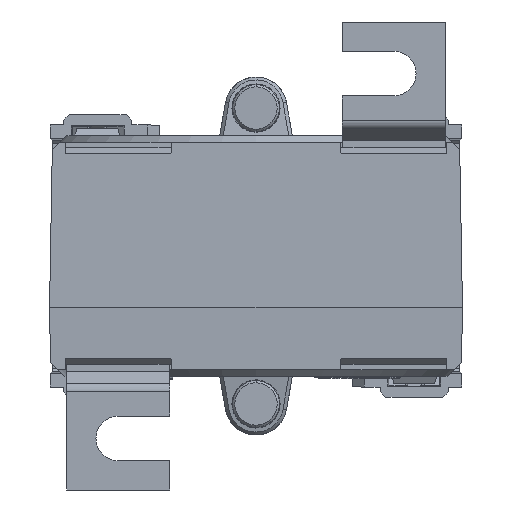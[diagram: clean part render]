
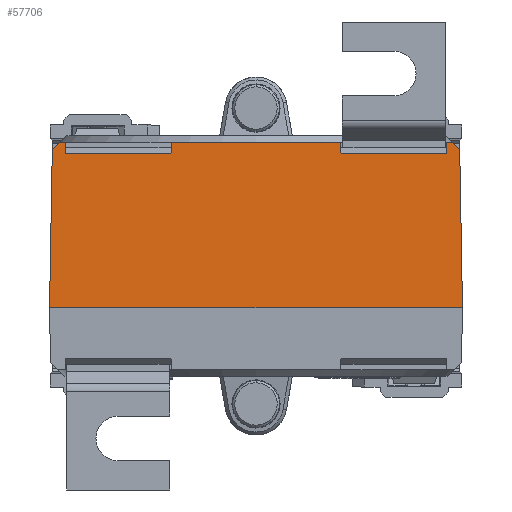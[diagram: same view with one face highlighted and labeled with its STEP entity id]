
A CAD part, front view. The second image highlights one B-rep face of the part: STEP entity #57706.
In plain terms, the highlighted planar face has unit normal (0, -1, 0.018).
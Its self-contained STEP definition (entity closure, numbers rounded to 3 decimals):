
#287 = EDGE_CURVE ( 'NONE', #29621, #38697, #89079, .T. ) ;
#1210 = VERTEX_POINT ( 'NONE', #58755 ) ;
#8693 = VERTEX_POINT ( 'NONE', #57717 ) ;
#9580 = LINE ( 'NONE', #72596, #30900 ) ;
#9790 = CARTESIAN_POINT ( 'NONE',  ( 12.337, -31.081, 24. ) ) ;
#10203 = EDGE_CURVE ( 'NONE', #65816, #59927, #51721, .T. ) ;
#10386 = ORIENTED_EDGE ( 'NONE', *, *, #84224, .F. ) ;
#12512 = DIRECTION ( 'NONE',  ( -1., 0., 0. ) ) ;
#14089 = DIRECTION ( 'NONE',  ( -0.719, 0.012, 0.695 ) ) ;
#16750 = CARTESIAN_POINT ( 'NONE',  ( -27.663, -31.081, 24. ) ) ;
#17963 = DIRECTION ( 'NONE',  ( 0.009, -0.017, -1. ) ) ;
#19256 = DIRECTION ( 'NONE',  ( 1., 0., 0. ) ) ;
#19688 = VERTEX_POINT ( 'NONE', #108164 ) ;
#20089 = ORIENTED_EDGE ( 'NONE', *, *, #100920, .F. ) ;
#20101 = LINE ( 'NONE', #26280, #110942 ) ;
#20440 = VERTEX_POINT ( 'NONE', #67108 ) ;
#23254 = PLANE ( 'NONE',  #42811 ) ;
#25202 = CARTESIAN_POINT ( 'NONE',  ( 12.344, -31.11, 22.325 ) ) ;
#25409 = ORIENTED_EDGE ( 'NONE', *, *, #111015, .F. ) ;
#25642 = CARTESIAN_POINT ( 'NONE',  ( -27.649, -31.11, 22.325 ) ) ;
#26280 = CARTESIAN_POINT ( 'NONE',  ( 29.99, -31.49, 0.549 ) ) ;
#27827 = DIRECTION ( 'NONE',  ( 0.009, 0.017, 1. ) ) ;
#28647 = DIRECTION ( 'NONE',  ( 1., 0., 0. ) ) ;
#28798 = VERTEX_POINT ( 'NONE', #9790 ) ;
#28835 = VECTOR ( 'NONE', #17963, 1000. ) ;
#29621 = VERTEX_POINT ( 'NONE', #98072 ) ;
#30900 = VECTOR ( 'NONE', #63899, 1000. ) ;
#32092 = VECTOR ( 'NONE', #82107, 1000. ) ;
#32362 = DIRECTION ( 'NONE',  ( 0., -1., 0.017 ) ) ;
#33143 = VECTOR ( 'NONE', #79203, 1000. ) ;
#33177 = LINE ( 'NONE', #55732, #36008 ) ;
#33280 = ORIENTED_EDGE ( 'NONE', *, *, #42514, .F. ) ;
#34955 = LINE ( 'NONE', #100062, #32092 ) ;
#35966 = LINE ( 'NONE', #25202, #60114 ) ;
#36008 = VECTOR ( 'NONE', #19256, 1000. ) ;
#37321 = FACE_OUTER_BOUND ( 'NONE', #61723, .T. ) ;
#37611 = VECTOR ( 'NONE', #54660, 1000. ) ;
#38697 = VERTEX_POINT ( 'NONE', #104661 ) ;
#38851 = VECTOR ( 'NONE', #28647, 1000. ) ;
#39433 = CARTESIAN_POINT ( 'NONE',  ( -30., -31.11, 22.325 ) ) ;
#39967 = ORIENTED_EDGE ( 'NONE', *, *, #105795, .F. ) ;
#40322 = EDGE_CURVE ( 'NONE', #19688, #28798, #34955, .T. ) ;
#40566 = ORIENTED_EDGE ( 'NONE', *, *, #70591, .T. ) ;
#42514 = EDGE_CURVE ( 'NONE', #8693, #79643, #60127, .T. ) ;
#42811 = AXIS2_PLACEMENT_3D ( 'NONE', #50176, #32362, #95849 ) ;
#44826 = CARTESIAN_POINT ( 'NONE',  ( -28.302, -31.077, 24.262 ) ) ;
#49129 = ORIENTED_EDGE ( 'NONE', *, *, #86035, .F. ) ;
#50099 = LINE ( 'NONE', #72251, #28835 ) ;
#50176 = CARTESIAN_POINT ( 'NONE',  ( -30., -31.5, 0. ) ) ;
#50354 = CARTESIAN_POINT ( 'NONE',  ( 27.663, -31.081, 24. ) ) ;
#51577 = VECTOR ( 'NONE', #27827, 1000. ) ;
#51721 = LINE ( 'NONE', #39433, #67330 ) ;
#53644 = VECTOR ( 'NONE', #14089, 1000. ) ;
#54660 = DIRECTION ( 'NONE',  ( -0.017, -0.017, -1. ) ) ;
#54717 = CARTESIAN_POINT ( 'NONE',  ( -12.351, -31.11, 22.325 ) ) ;
#55732 = CARTESIAN_POINT ( 'NONE',  ( -30., -31.081, 24. ) ) ;
#57706 = ADVANCED_FACE ( 'NONE', ( #37321 ), #23254, .T. ) ;
#57717 = CARTESIAN_POINT ( 'NONE',  ( 27.649, -31.11, 22.325 ) ) ;
#58755 = CARTESIAN_POINT ( 'NONE',  ( -30., -31.5, 0. ) ) ;
#59698 = CARTESIAN_POINT ( 'NONE',  ( 28.302, -31.077, 24.262 ) ) ;
#59927 = VERTEX_POINT ( 'NONE', #25642 ) ;
#60114 = VECTOR ( 'NONE', #97810, 1000. ) ;
#60127 = LINE ( 'NONE', #106188, #33143 ) ;
#60357 = VERTEX_POINT ( 'NONE', #80574 ) ;
#61723 = EDGE_LOOP ( 'NONE', ( #33280, #96187, #39967, #68540, #20089, #81874, #25409, #95754, #101288, #82501, #79711, #49129, #40566, #10386 ) ) ;
#62785 = CARTESIAN_POINT ( 'NONE',  ( -30., -31.5, 0. ) ) ;
#63772 = CARTESIAN_POINT ( 'NONE',  ( 28.573, -31.081, 24. ) ) ;
#63899 = DIRECTION ( 'NONE',  ( 0.009, -0.017, -1. ) ) ;
#65816 = VERTEX_POINT ( 'NONE', #54717 ) ;
#65846 = LINE ( 'NONE', #73844, #38851 ) ;
#67108 = CARTESIAN_POINT ( 'NONE',  ( 29.598, -31.098, 23.01 ) ) ;
#67330 = VECTOR ( 'NONE', #12512, 1000. ) ;
#68540 = ORIENTED_EDGE ( 'NONE', *, *, #40322, .F. ) ;
#70591 = EDGE_CURVE ( 'NONE', #20440, #90839, #99128, .T. ) ;
#72251 = CARTESIAN_POINT ( 'NONE',  ( -27.551, -31.307, 11.084 ) ) ;
#72501 = VERTEX_POINT ( 'NONE', #103174 ) ;
#72596 = CARTESIAN_POINT ( 'NONE',  ( 12.449, -31.307, 11.084 ) ) ;
#73844 = CARTESIAN_POINT ( 'NONE',  ( -30., -31.081, 24. ) ) ;
#73955 = EDGE_CURVE ( 'NONE', #29621, #75745, #65846, .T. ) ;
#75745 = VERTEX_POINT ( 'NONE', #16750 ) ;
#79203 = DIRECTION ( 'NONE',  ( 0.009, 0.017, 1. ) ) ;
#79248 = EDGE_CURVE ( 'NONE', #1210, #72501, #111933, .T. ) ;
#79643 = VERTEX_POINT ( 'NONE', #50354 ) ;
#79711 = ORIENTED_EDGE ( 'NONE', *, *, #79248, .T. ) ;
#80574 = CARTESIAN_POINT ( 'NONE',  ( 12.351, -31.11, 22.325 ) ) ;
#81874 = ORIENTED_EDGE ( 'NONE', *, *, #10203, .T. ) ;
#82107 = DIRECTION ( 'NONE',  ( 1., 0., 0. ) ) ;
#82501 = ORIENTED_EDGE ( 'NONE', *, *, #90919, .T. ) ;
#84224 = EDGE_CURVE ( 'NONE', #79643, #90839, #33177, .T. ) ;
#86035 = EDGE_CURVE ( 'NONE', #20440, #72501, #20101, .T. ) ;
#89079 = LINE ( 'NONE', #44826, #107527 ) ;
#90596 = VECTOR ( 'NONE', #108768, 1000. ) ;
#90839 = VERTEX_POINT ( 'NONE', #63772 ) ;
#90919 = EDGE_CURVE ( 'NONE', #38697, #1210, #107201, .T. ) ;
#92402 = EDGE_CURVE ( 'NONE', #8693, #60357, #35966, .T. ) ;
#95754 = ORIENTED_EDGE ( 'NONE', *, *, #73955, .F. ) ;
#95849 = DIRECTION ( 'NONE',  ( 0., -0.017, -1. ) ) ;
#96187 = ORIENTED_EDGE ( 'NONE', *, *, #92402, .T. ) ;
#97045 = LINE ( 'NONE', #109535, #51577 ) ;
#97810 = DIRECTION ( 'NONE',  ( -1., 0., 0. ) ) ;
#98072 = CARTESIAN_POINT ( 'NONE',  ( -28.573, -31.081, 24. ) ) ;
#99128 = LINE ( 'NONE', #59698, #53644 ) ;
#100062 = CARTESIAN_POINT ( 'NONE',  ( -30., -31.081, 24. ) ) ;
#100920 = EDGE_CURVE ( 'NONE', #65816, #19688, #97045, .T. ) ;
#101288 = ORIENTED_EDGE ( 'NONE', *, *, #287, .T. ) ;
#101627 = DIRECTION ( 'NONE',  ( -0.719, -0.012, -0.695 ) ) ;
#103174 = CARTESIAN_POINT ( 'NONE',  ( 30., -31.5, 0. ) ) ;
#104661 = CARTESIAN_POINT ( 'NONE',  ( -29.598, -31.098, 23.01 ) ) ;
#105795 = EDGE_CURVE ( 'NONE', #28798, #60357, #9580, .T. ) ;
#106188 = CARTESIAN_POINT ( 'NONE',  ( 27.551, -31.307, 11.084 ) ) ;
#107201 = LINE ( 'NONE', #110189, #37611 ) ;
#107527 = VECTOR ( 'NONE', #101627, 1000. ) ;
#108164 = CARTESIAN_POINT ( 'NONE',  ( -12.337, -31.081, 24. ) ) ;
#108768 = DIRECTION ( 'NONE',  ( 1., 0., 0. ) ) ;
#109535 = CARTESIAN_POINT ( 'NONE',  ( -12.449, -31.307, 11.084 ) ) ;
#110189 = CARTESIAN_POINT ( 'NONE',  ( -30., -31.5, 0. ) ) ;
#110942 = VECTOR ( 'NONE', #117184, 1000. ) ;
#111015 = EDGE_CURVE ( 'NONE', #75745, #59927, #50099, .T. ) ;
#111933 = LINE ( 'NONE', #62785, #90596 ) ;
#117184 = DIRECTION ( 'NONE',  ( 0.017, -0.017, -1. ) ) ;
